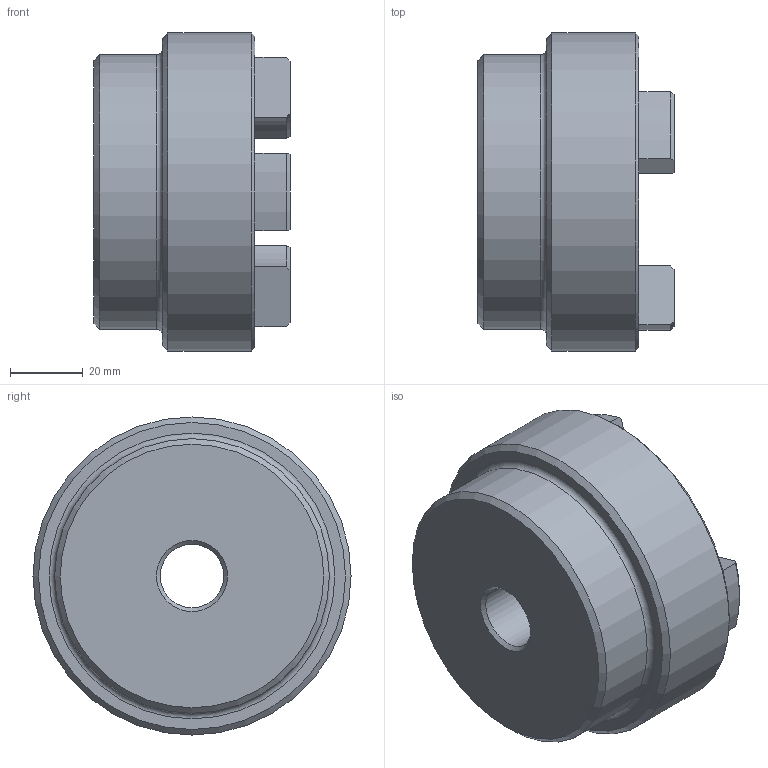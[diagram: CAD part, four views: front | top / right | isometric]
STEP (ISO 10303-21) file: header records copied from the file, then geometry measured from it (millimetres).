
FILE_DESCRIPTION (( 'STEP AP203' ), '1' );
FILE_NAME ('RC3.step', '2024-07-24T12:56:31', ( 'Adlan' ), ( '' ), 'SwSTEP 2.0', 'SolidWorks 2013', '' );
FILE_SCHEMA (( 'CONFIG_CONTROL_DESIGN' ));
Length unit declared in the file: inch
Products named in the file (1): RC3
Bounding box: 53.85 x 87.38 x 87.38 mm (x, y, z)
Volume: 188865.4 mm3; surface area: 29410.3 mm2
Topology: 1 solids, 1 shells, 60 faces, 146 edges, 90 vertices
Faces by surface type: cylinder 24, plane 13, torus 13, cone 10
Full cylindrical faces by diameter (mm): 17.47 x1, 75.438 x1, 87.376 x1
Entity records: 1841 total; most frequent: CARTESIAN_POINT 341, DIRECTION 324, ORIENTED_EDGE 274, EDGE_CURVE 137, AXIS2_PLACEMENT_3D 132, VERTEX_POINT 89, EDGE_LOOP 72, CIRCLE 71
